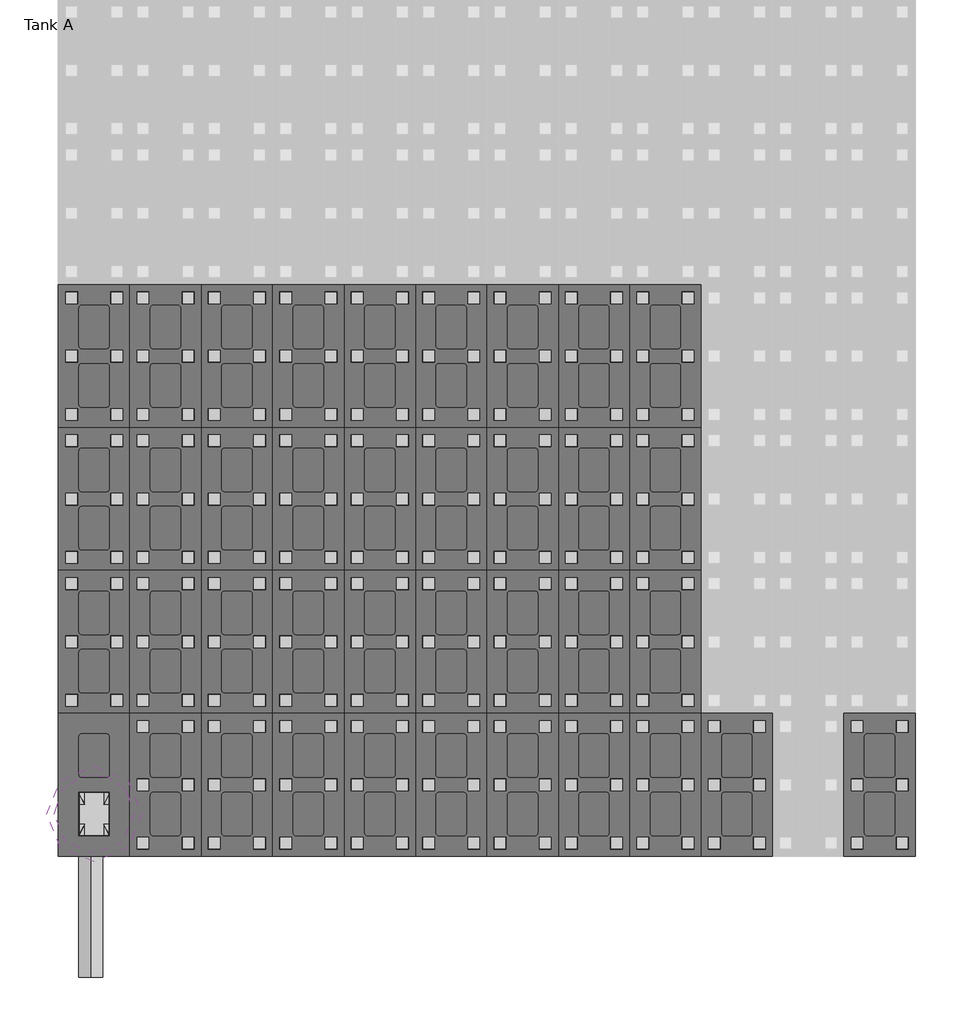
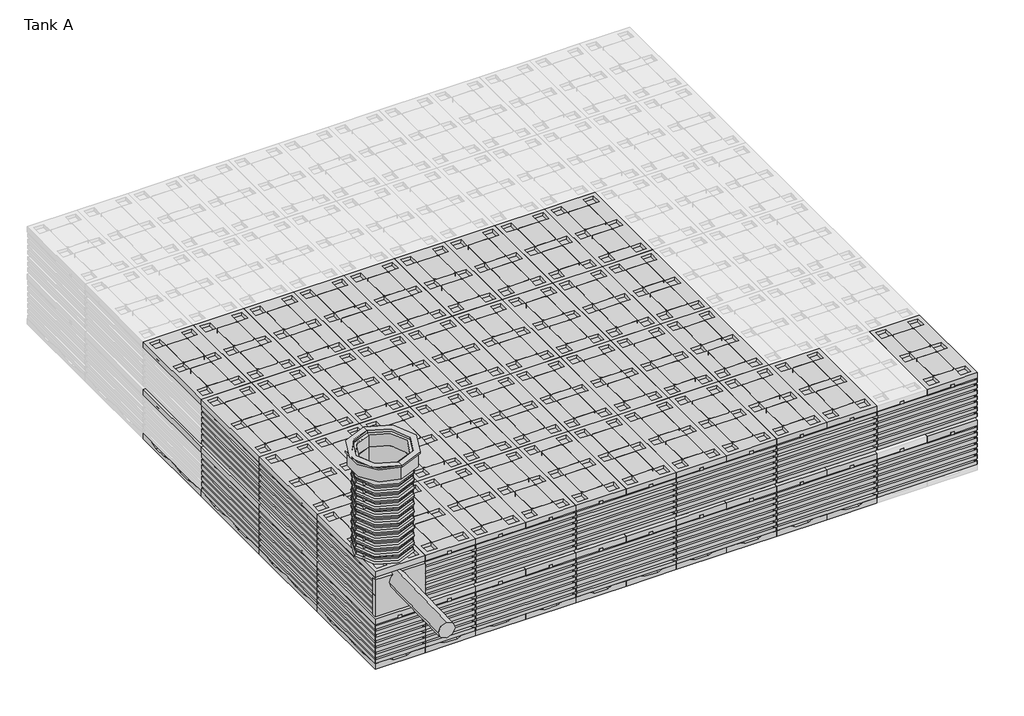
# One storey, part 1 of 6: 136 unitary equipment elements, 2 pipe fittings, 1 pipe segment.
"""IFC4 building model written with IfcOpenShell, lengths in millimetres."""

from ifc_helpers import new_model, si_unit, point, frame, frame_2d, origin, place, context, project, spatial, circle_curve, trimmed, segment, composite_curve, outline, extrude, transform, mapped, element, save
from components import pipe_fitting_6d64b734, pipe_fitting_905b8aec, std_ea1399cf, unitary_equipment_600_9c861f79, closed_bottom_plate_7d425a97, std_f31acf44, std_0451be0c, std_9ab658ca, std_7f29cd48, std_d7962c01

model = new_model("IFC4")

# Units and contexts
model_context = context("Model", 3, world=origin())
ifc_project = project(units=[si_unit("LENGTHUNIT", "METRE", prefix="MILLI")], contexts=[model_context])

# Site, building, storey
site = spatial("IfcSite", under=ifc_project)
building = spatial("IfcBuilding", under=site)
storey = spatial("IfcBuildingStorey", under=building, Name="Tank A", Elevation=-2300.0)

# Pipe fittings
placement = place(None, origin())
pipe_fitting_shape = pipe_fitting_6d64b734(model_context)
pipe_fitting_2_shape = pipe_fitting_905b8aec(model_context)
element("IfcPipeFitting", 1, ObjectType="Z_PIF_UN_Q-Bic_Plus_Shaft_Pipe_Wavin_(nested) : PP, RAL8012, ø600mm", at=placement, inside=storey, context=model_context, shape_type="MappedRepresentation", body=[
    mapped(pipe_fitting_shape, transform((2786.051096, -4084.2220602, -1070.0), x_axis=(0.0, 0.0, 1.0000000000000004), y_axis=(1.0000000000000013, 0.0, 0.0), z_axis=(0.0, 1.0000000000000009, 0.0))),
    mapped(pipe_fitting_2_shape, transform((2786.051096, -4084.2220602, -1070.0), x_axis=(0.0, 0.0, 1.0000000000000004), y_axis=(1.0000000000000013, 0.0, 0.0), z_axis=(0.0, 1.0000000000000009, 0.0))),
])
std_shape = std_ea1399cf(model_context)
element("IfcPipeFitting", 2, ObjectType="Z_PIF_UN_Q-Bic_Plus_Telescopic_Frame_Wavin_(nested) : std", at=placement, inside=storey, context=model_context, shape_type="MappedRepresentation", body=[
    mapped(std_shape, transform((2786.051096, -4084.2220602, 200.0), x_axis=(0.0, -1.0000000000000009, 0.0), y_axis=(1.0000000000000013, 0.0, 0.0), z_axis=(0.0, 0.0, 1.0000000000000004))),
])

# Pipe segment
element("IfcPipeSegment", 3, ObjectType="Generic PVC", at=placement, inside=storey, context=model_context, shape_type="SweptSolid", body=[
    extrude(outline(composite_curve([segment(trimmed(circle_curve(frame_2d((0.0, -100.0)), 100.0), [point((-100.0, -100.0))], [point((0.0, 0.0))], False, "CARTESIAN"), True, "CONTINUOUS"), segment(trimmed(circle_curve(frame_2d((0.0, -100.0)), 100.0), [point((0.0, 0.0))], [point((100.0, -100.0))], False, "CARTESIAN"), True, "CONTINUOUS"), segment(trimmed(circle_curve(frame_2d((0.0, -100.0)), 100.0), [point((100.0, -100.0))], [point((0.0, -199.9999999))], False, "CARTESIAN"), True, "CONTINUOUS"), segment(trimmed(circle_curve(frame_2d((0.0, -100.0)), 100.0), [point((0.0, -199.9999999))], [point((-100.0, -100.0))], False, "CARTESIAN"), True, "CONTINUOUS")], self_intersect=False)), frame((2756.051096, -5451.5950178, -1383.5203734), z_axis=(0.0, 0.9996774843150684, 0.02539541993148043), x_axis=(1.0, 0.0, 0.0)), (0.0, 0.0, 1.0), 1065.2560614),
])

# Unitary equipment
unitary_equipment_600_shape = unitary_equipment_600_9c861f79(model_context)
element("IfcUnitaryEquipment", 4, ObjectType="Z_ME_UN_Q-Bic_Plus_Kit_Shaft_Connector_Wavin_(nested) : 600", at=placement, inside=storey, context=model_context, shape_type="MappedRepresentation", body=[
    mapped(unitary_equipment_600_shape, transform((2786.051096, -4084.2220602, -1070.0), x_axis=(0.0, -1.0000000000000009, 0.0), y_axis=(1.0000000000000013, 0.0, 0.0), z_axis=(0.0, 0.0, 1.0000000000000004))),
])
closed_bottom_plate_shape = closed_bottom_plate_7d425a97(model_context)
element("IfcUnitaryEquipment", 5, ObjectType="Z_ME_UN_Q-Bic_Plus_Bottom_Plate_Wavin_(nested) : Open bottom plate", at=placement, inside=storey, context=model_context, shape_type="MappedRepresentation", body=[
    mapped(closed_bottom_plate_shape, transform((2486.051096, -3239.2220602, -2230.0), x_axis=(0.0, -1.0000000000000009, 0.0), y_axis=(1.0000000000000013, 0.0, 0.0), z_axis=(0.0, 0.0, 1.0000000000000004))),
])
element("IfcUnitaryEquipment", 6, ObjectType="Z_ME_UN_Q-Bic_Plus_Bottom_Plate_Wavin_(nested) : Open bottom plate", at=placement, inside=storey, context=model_context, shape_type="MappedRepresentation", body=[
    mapped(closed_bottom_plate_shape, transform((8486.051096, -4439.2220602, -2230.0), x_axis=(0.0, 1.0, 0.0), y_axis=(-1.0000000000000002, 0.0, 0.0), z_axis=(0.0, 0.0, 1.0000000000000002))),
])
element("IfcUnitaryEquipment", 7, ObjectType="Z_ME_UN_Q-Bic_Plus_Bottom_Plate_Wavin_(nested) : Open bottom plate", at=placement, inside=storey, context=model_context, shape_type="MappedRepresentation", body=[
    mapped(closed_bottom_plate_shape, transform((7886.051096, -4439.2220602, -2230.0), x_axis=(0.0, 1.0, 0.0), y_axis=(-1.0000000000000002, 0.0, 0.0), z_axis=(0.0, 0.0, 1.0000000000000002))),
])
element("IfcUnitaryEquipment", 8, ObjectType="Z_ME_UN_Q-Bic_Plus_Bottom_Plate_Wavin_(nested) : Open bottom plate", at=placement, inside=storey, context=model_context, shape_type="MappedRepresentation", body=[
    mapped(closed_bottom_plate_shape, transform((7286.051096, -4439.2220602, -2230.0), x_axis=(0.0, 1.0, 0.0), y_axis=(-1.0000000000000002, 0.0, 0.0), z_axis=(0.0, 0.0, 1.0000000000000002))),
])
element("IfcUnitaryEquipment", 9, ObjectType="Z_ME_UN_Q-Bic_Plus_Bottom_Plate_Wavin_(nested) : Open bottom plate", at=placement, inside=storey, context=model_context, shape_type="MappedRepresentation", body=[
    mapped(closed_bottom_plate_shape, transform((6686.051096, -4439.2220602, -2230.0), x_axis=(0.0, 1.0, 0.0), y_axis=(-1.0000000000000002, 0.0, 0.0), z_axis=(0.0, 0.0, 1.0000000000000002))),
])
element("IfcUnitaryEquipment", 10, ObjectType="Z_ME_UN_Q-Bic_Plus_Bottom_Plate_Wavin_(nested) : Open bottom plate", at=placement, inside=storey, context=model_context, shape_type="MappedRepresentation", body=[
    mapped(closed_bottom_plate_shape, transform((6086.051096, -4439.2220602, -2230.0), x_axis=(0.0, 1.0, 0.0), y_axis=(-1.0000000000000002, 0.0, 0.0), z_axis=(0.0, 0.0, 1.0000000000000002))),
])
element("IfcUnitaryEquipment", 11, ObjectType="Z_ME_UN_Q-Bic_Plus_Bottom_Plate_Wavin_(nested) : Open bottom plate", at=placement, inside=storey, context=model_context, shape_type="MappedRepresentation", body=[
    mapped(closed_bottom_plate_shape, transform((5486.051096, -4439.2220602, -2230.0), x_axis=(0.0, 1.0, 0.0), y_axis=(-1.0000000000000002, 0.0, 0.0), z_axis=(0.0, 0.0, 1.0000000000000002))),
])
element("IfcUnitaryEquipment", 12, ObjectType="Z_ME_UN_Q-Bic_Plus_Bottom_Plate_Wavin_(nested) : Open bottom plate", at=placement, inside=storey, context=model_context, shape_type="MappedRepresentation", body=[
    mapped(closed_bottom_plate_shape, transform((4886.051096, -4439.2220602, -2230.0), x_axis=(0.0, 1.0, 0.0), y_axis=(-1.0000000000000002, 0.0, 0.0), z_axis=(0.0, 0.0, 1.0000000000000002))),
])
element("IfcUnitaryEquipment", 13, ObjectType="Z_ME_UN_Q-Bic_Plus_Bottom_Plate_Wavin_(nested) : Open bottom plate", at=placement, inside=storey, context=model_context, shape_type="MappedRepresentation", body=[
    mapped(closed_bottom_plate_shape, transform((4286.051096, -4439.2220602, -2230.0), x_axis=(0.0, 1.0, 0.0), y_axis=(-1.0000000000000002, 0.0, 0.0), z_axis=(0.0, 0.0, 1.0000000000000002))),
])
element("IfcUnitaryEquipment", 14, ObjectType="Z_ME_UN_Q-Bic_Plus_Bottom_Plate_Wavin_(nested) : Open bottom plate", at=placement, inside=storey, context=model_context, shape_type="MappedRepresentation", body=[
    mapped(closed_bottom_plate_shape, transform((3686.051096, -4439.2220602, -2230.0), x_axis=(0.0, 1.0, 0.0), y_axis=(-1.0000000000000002, 0.0, 0.0), z_axis=(0.0, 0.0, 1.0000000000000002))),
])
element("IfcUnitaryEquipment", 15, ObjectType="Z_ME_UN_Q-Bic_Plus_Bottom_Plate_Wavin_(nested) : Open bottom plate", at=placement, inside=storey, context=model_context, shape_type="MappedRepresentation", body=[
    mapped(closed_bottom_plate_shape, transform((7886.051096, -3239.2220602, -2230.0), x_axis=(0.0, 1.0, 0.0), y_axis=(-1.0000000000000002, 0.0, 0.0), z_axis=(0.0, 0.0, 1.0000000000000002))),
])
element("IfcUnitaryEquipment", 16, ObjectType="Z_ME_UN_Q-Bic_Plus_Bottom_Plate_Wavin_(nested) : Open bottom plate", at=placement, inside=storey, context=model_context, shape_type="MappedRepresentation", body=[
    mapped(closed_bottom_plate_shape, transform((7886.051096, -2039.2220602, -2230.0), x_axis=(0.0, 1.0, 0.0), y_axis=(-1.0000000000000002, 0.0, 0.0), z_axis=(0.0, 0.0, 1.0000000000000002))),
])
element("IfcUnitaryEquipment", 17, ObjectType="Z_ME_UN_Q-Bic_Plus_Bottom_Plate_Wavin_(nested) : Open bottom plate", at=placement, inside=storey, context=model_context, shape_type="MappedRepresentation", body=[
    mapped(closed_bottom_plate_shape, transform((7886.051096, -839.2220602, -2230.0), x_axis=(0.0, 1.0, 0.0), y_axis=(-1.0000000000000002, 0.0, 0.0), z_axis=(0.0, 0.0, 1.0000000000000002))),
])
element("IfcUnitaryEquipment", 18, ObjectType="Z_ME_UN_Q-Bic_Plus_Bottom_Plate_Wavin_(nested) : Open bottom plate", at=placement, inside=storey, context=model_context, shape_type="MappedRepresentation", body=[
    mapped(closed_bottom_plate_shape, transform((7286.051096, -3239.2220602, -2230.0), x_axis=(0.0, 1.0, 0.0), y_axis=(-1.0000000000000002, 0.0, 0.0), z_axis=(0.0, 0.0, 1.0000000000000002))),
])
element("IfcUnitaryEquipment", 19, ObjectType="Z_ME_UN_Q-Bic_Plus_Bottom_Plate_Wavin_(nested) : Open bottom plate", at=placement, inside=storey, context=model_context, shape_type="MappedRepresentation", body=[
    mapped(closed_bottom_plate_shape, transform((7286.051096, -2039.2220602, -2230.0), x_axis=(0.0, 1.0, 0.0), y_axis=(-1.0000000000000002, 0.0, 0.0), z_axis=(0.0, 0.0, 1.0000000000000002))),
])
element("IfcUnitaryEquipment", 20, ObjectType="Z_ME_UN_Q-Bic_Plus_Bottom_Plate_Wavin_(nested) : Open bottom plate", at=placement, inside=storey, context=model_context, shape_type="MappedRepresentation", body=[
    mapped(closed_bottom_plate_shape, transform((7286.051096, -839.2220602, -2230.0), x_axis=(0.0, 1.0, 0.0), y_axis=(-1.0000000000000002, 0.0, 0.0), z_axis=(0.0, 0.0, 1.0000000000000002))),
])
element("IfcUnitaryEquipment", 21, ObjectType="Z_ME_UN_Q-Bic_Plus_Bottom_Plate_Wavin_(nested) : Open bottom plate", at=placement, inside=storey, context=model_context, shape_type="MappedRepresentation", body=[
    mapped(closed_bottom_plate_shape, transform((6686.051096, -3239.2220602, -2230.0), x_axis=(0.0, 1.0, 0.0), y_axis=(-1.0000000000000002, 0.0, 0.0), z_axis=(0.0, 0.0, 1.0000000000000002))),
])
element("IfcUnitaryEquipment", 22, ObjectType="Z_ME_UN_Q-Bic_Plus_Bottom_Plate_Wavin_(nested) : Open bottom plate", at=placement, inside=storey, context=model_context, shape_type="MappedRepresentation", body=[
    mapped(closed_bottom_plate_shape, transform((6686.051096, -2039.2220602, -2230.0), x_axis=(0.0, 1.0, 0.0), y_axis=(-1.0000000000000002, 0.0, 0.0), z_axis=(0.0, 0.0, 1.0000000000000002))),
])
element("IfcUnitaryEquipment", 23, ObjectType="Z_ME_UN_Q-Bic_Plus_Bottom_Plate_Wavin_(nested) : Open bottom plate", at=placement, inside=storey, context=model_context, shape_type="MappedRepresentation", body=[
    mapped(closed_bottom_plate_shape, transform((6686.051096, -839.2220602, -2230.0), x_axis=(0.0, 1.0, 0.0), y_axis=(-1.0000000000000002, 0.0, 0.0), z_axis=(0.0, 0.0, 1.0000000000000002))),
])
element("IfcUnitaryEquipment", 24, ObjectType="Z_ME_UN_Q-Bic_Plus_Bottom_Plate_Wavin_(nested) : Open bottom plate", at=placement, inside=storey, context=model_context, shape_type="MappedRepresentation", body=[
    mapped(closed_bottom_plate_shape, transform((6086.051096, -3239.2220602, -2230.0), x_axis=(0.0, 1.0, 0.0), y_axis=(-1.0000000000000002, 0.0, 0.0), z_axis=(0.0, 0.0, 1.0000000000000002))),
])
element("IfcUnitaryEquipment", 25, ObjectType="Z_ME_UN_Q-Bic_Plus_Bottom_Plate_Wavin_(nested) : Open bottom plate", at=placement, inside=storey, context=model_context, shape_type="MappedRepresentation", body=[
    mapped(closed_bottom_plate_shape, transform((6086.051096, -2039.2220602, -2230.0), x_axis=(0.0, 1.0, 0.0), y_axis=(-1.0000000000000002, 0.0, 0.0), z_axis=(0.0, 0.0, 1.0000000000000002))),
])
element("IfcUnitaryEquipment", 26, ObjectType="Z_ME_UN_Q-Bic_Plus_Bottom_Plate_Wavin_(nested) : Open bottom plate", at=placement, inside=storey, context=model_context, shape_type="MappedRepresentation", body=[
    mapped(closed_bottom_plate_shape, transform((6086.051096, -839.2220602, -2230.0), x_axis=(0.0, 1.0, 0.0), y_axis=(-1.0000000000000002, 0.0, 0.0), z_axis=(0.0, 0.0, 1.0000000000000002))),
])
element("IfcUnitaryEquipment", 27, ObjectType="Z_ME_UN_Q-Bic_Plus_Bottom_Plate_Wavin_(nested) : Open bottom plate", at=placement, inside=storey, context=model_context, shape_type="MappedRepresentation", body=[
    mapped(closed_bottom_plate_shape, transform((5486.051096, -3239.2220602, -2230.0), x_axis=(0.0, 1.0, 0.0), y_axis=(-1.0000000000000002, 0.0, 0.0), z_axis=(0.0, 0.0, 1.0000000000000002))),
])
element("IfcUnitaryEquipment", 28, ObjectType="Z_ME_UN_Q-Bic_Plus_Bottom_Plate_Wavin_(nested) : Open bottom plate", at=placement, inside=storey, context=model_context, shape_type="MappedRepresentation", body=[
    mapped(closed_bottom_plate_shape, transform((5486.051096, -2039.2220602, -2230.0), x_axis=(0.0, 1.0, 0.0), y_axis=(-1.0000000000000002, 0.0, 0.0), z_axis=(0.0, 0.0, 1.0000000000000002))),
])
element("IfcUnitaryEquipment", 29, ObjectType="Z_ME_UN_Q-Bic_Plus_Bottom_Plate_Wavin_(nested) : Open bottom plate", at=placement, inside=storey, context=model_context, shape_type="MappedRepresentation", body=[
    mapped(closed_bottom_plate_shape, transform((5486.051096, -839.2220602, -2230.0), x_axis=(0.0, 1.0, 0.0), y_axis=(-1.0000000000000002, 0.0, 0.0), z_axis=(0.0, 0.0, 1.0000000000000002))),
])
element("IfcUnitaryEquipment", 30, ObjectType="Z_ME_UN_Q-Bic_Plus_Bottom_Plate_Wavin_(nested) : Open bottom plate", at=placement, inside=storey, context=model_context, shape_type="MappedRepresentation", body=[
    mapped(closed_bottom_plate_shape, transform((4886.051096, -3239.2220602, -2230.0), x_axis=(0.0, 1.0, 0.0), y_axis=(-1.0000000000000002, 0.0, 0.0), z_axis=(0.0, 0.0, 1.0000000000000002))),
])
element("IfcUnitaryEquipment", 31, ObjectType="Z_ME_UN_Q-Bic_Plus_Bottom_Plate_Wavin_(nested) : Open bottom plate", at=placement, inside=storey, context=model_context, shape_type="MappedRepresentation", body=[
    mapped(closed_bottom_plate_shape, transform((4886.051096, -2039.2220602, -2230.0), x_axis=(0.0, 1.0, 0.0), y_axis=(-1.0000000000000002, 0.0, 0.0), z_axis=(0.0, 0.0, 1.0000000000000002))),
])
element("IfcUnitaryEquipment", 32, ObjectType="Z_ME_UN_Q-Bic_Plus_Bottom_Plate_Wavin_(nested) : Open bottom plate", at=placement, inside=storey, context=model_context, shape_type="MappedRepresentation", body=[
    mapped(closed_bottom_plate_shape, transform((4886.051096, -839.2220602, -2230.0), x_axis=(0.0, 1.0, 0.0), y_axis=(-1.0000000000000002, 0.0, 0.0), z_axis=(0.0, 0.0, 1.0000000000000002))),
])
element("IfcUnitaryEquipment", 33, ObjectType="Z_ME_UN_Q-Bic_Plus_Bottom_Plate_Wavin_(nested) : Open bottom plate", at=placement, inside=storey, context=model_context, shape_type="MappedRepresentation", body=[
    mapped(closed_bottom_plate_shape, transform((4286.051096, -3239.2220602, -2230.0), x_axis=(0.0, 1.0, 0.0), y_axis=(-1.0000000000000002, 0.0, 0.0), z_axis=(0.0, 0.0, 1.0000000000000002))),
])
element("IfcUnitaryEquipment", 34, ObjectType="Z_ME_UN_Q-Bic_Plus_Bottom_Plate_Wavin_(nested) : Open bottom plate", at=placement, inside=storey, context=model_context, shape_type="MappedRepresentation", body=[
    mapped(closed_bottom_plate_shape, transform((4286.051096, -2039.2220602, -2230.0), x_axis=(0.0, 1.0, 0.0), y_axis=(-1.0000000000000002, 0.0, 0.0), z_axis=(0.0, 0.0, 1.0000000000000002))),
])
element("IfcUnitaryEquipment", 35, ObjectType="Z_ME_UN_Q-Bic_Plus_Bottom_Plate_Wavin_(nested) : Open bottom plate", at=placement, inside=storey, context=model_context, shape_type="MappedRepresentation", body=[
    mapped(closed_bottom_plate_shape, transform((4286.051096, -839.2220602, -2230.0), x_axis=(0.0, 1.0, 0.0), y_axis=(-1.0000000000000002, 0.0, 0.0), z_axis=(0.0, 0.0, 1.0000000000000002))),
])
element("IfcUnitaryEquipment", 36, ObjectType="Z_ME_UN_Q-Bic_Plus_Bottom_Plate_Wavin_(nested) : Open bottom plate", at=placement, inside=storey, context=model_context, shape_type="MappedRepresentation", body=[
    mapped(closed_bottom_plate_shape, transform((3686.051096, -3239.2220602, -2230.0), x_axis=(0.0, 1.0, 0.0), y_axis=(-1.0000000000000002, 0.0, 0.0), z_axis=(0.0, 0.0, 1.0000000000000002))),
])
element("IfcUnitaryEquipment", 37, ObjectType="Z_ME_UN_Q-Bic_Plus_Bottom_Plate_Wavin_(nested) : Open bottom plate", at=placement, inside=storey, context=model_context, shape_type="MappedRepresentation", body=[
    mapped(closed_bottom_plate_shape, transform((3686.051096, -2039.2220602, -2230.0), x_axis=(0.0, 1.0, 0.0), y_axis=(-1.0000000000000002, 0.0, 0.0), z_axis=(0.0, 0.0, 1.0000000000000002))),
])
element("IfcUnitaryEquipment", 38, ObjectType="Z_ME_UN_Q-Bic_Plus_Bottom_Plate_Wavin_(nested) : Open bottom plate", at=placement, inside=storey, context=model_context, shape_type="MappedRepresentation", body=[
    mapped(closed_bottom_plate_shape, transform((3686.051096, -839.2220602, -2230.0), x_axis=(0.0, 1.0, 0.0), y_axis=(-1.0000000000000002, 0.0, 0.0), z_axis=(0.0, 0.0, 1.0000000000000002))),
])
element("IfcUnitaryEquipment", 39, ObjectType="Z_ME_UN_Q-Bic_Plus_Bottom_Plate_Wavin_(nested) : Open bottom plate", at=placement, inside=storey, context=model_context, shape_type="MappedRepresentation", body=[
    mapped(closed_bottom_plate_shape, transform((3086.051096, -3239.2220602, -2230.0), x_axis=(0.0, 1.0, 0.0), y_axis=(-1.0000000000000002, 0.0, 0.0), z_axis=(0.0, 0.0, 1.0000000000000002))),
])
element("IfcUnitaryEquipment", 40, ObjectType="Z_ME_UN_Q-Bic_Plus_Bottom_Plate_Wavin_(nested) : Open bottom plate", at=placement, inside=storey, context=model_context, shape_type="MappedRepresentation", body=[
    mapped(closed_bottom_plate_shape, transform((3086.051096, -2039.2220602, -2230.0), x_axis=(0.0, 1.0, 0.0), y_axis=(-1.0000000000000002, 0.0, 0.0), z_axis=(0.0, 0.0, 1.0000000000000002))),
])
element("IfcUnitaryEquipment", 41, ObjectType="Z_ME_UN_Q-Bic_Plus_Bottom_Plate_Wavin_(nested) : Open bottom plate", at=placement, inside=storey, context=model_context, shape_type="MappedRepresentation", body=[
    mapped(closed_bottom_plate_shape, transform((3086.051096, -839.2220602, -2230.0), x_axis=(0.0, 1.0, 0.0), y_axis=(-1.0000000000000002, 0.0, 0.0), z_axis=(0.0, 0.0, 1.0000000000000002))),
])
std_2_shape = std_f31acf44(model_context)
element("IfcUnitaryEquipment", 42, ObjectType="Z_ME_UN_Q-Bic_Plus_Lateral_Side_Plate_Wavin_(nested) : std", at=placement, inside=storey, context=model_context, shape_type="MappedRepresentation", body=[
    mapped(std_2_shape, transform((6086.051096, -4439.2220602, -2330.0), x_axis=(1.0, 0.0, 0.0), y_axis=(0.0, 1.0, 0.0), z_axis=(0.0, 0.0, 1.0))),
])
element("IfcUnitaryEquipment", 43, ObjectType="Z_ME_UN_Q-Bic_Plus_Lateral_Side_Plate_Wavin_(nested) : std", at=placement, inside=storey, context=model_context, shape_type="MappedRepresentation", body=[
    mapped(std_2_shape, transform((6086.051096, -4439.2220602, -1730.0), x_axis=(1.0, 0.0, 0.0), y_axis=(0.0, 1.0, 0.0), z_axis=(0.0, 0.0, 1.0))),
])
element("IfcUnitaryEquipment", 44, ObjectType="Z_ME_UN_Q-Bic_Plus_Lateral_Side_Plate_Wavin_(nested) : std", at=placement, inside=storey, context=model_context, shape_type="MappedRepresentation", body=[
    mapped(std_2_shape, transform((4886.051096, -4439.2220602, -2330.0), x_axis=(1.0, 0.0, 0.0), y_axis=(0.0, 1.0, 0.0), z_axis=(0.0, 0.0, 1.0))),
])
element("IfcUnitaryEquipment", 45, ObjectType="Z_ME_UN_Q-Bic_Plus_Lateral_Side_Plate_Wavin_(nested) : std", at=placement, inside=storey, context=model_context, shape_type="MappedRepresentation", body=[
    mapped(std_2_shape, transform((4886.051096, -4439.2220602, -1730.0), x_axis=(1.0, 0.0, 0.0), y_axis=(0.0, 1.0, 0.0), z_axis=(0.0, 0.0, 1.0))),
])
element("IfcUnitaryEquipment", 46, ObjectType="Z_ME_UN_Q-Bic_Plus_Lateral_Side_Plate_Wavin_(nested) : std", at=placement, inside=storey, context=model_context, shape_type="MappedRepresentation", body=[
    mapped(std_2_shape, transform((3686.051096, -4439.2220602, -2330.0), x_axis=(1.0, 0.0, 0.0), y_axis=(0.0, 1.0, 0.0), z_axis=(0.0, 0.0, 1.0))),
])
element("IfcUnitaryEquipment", 47, ObjectType="Z_ME_UN_Q-Bic_Plus_Lateral_Side_Plate_Wavin_(nested) : std", at=placement, inside=storey, context=model_context, shape_type="MappedRepresentation", body=[
    mapped(std_2_shape, transform((3686.051096, -4439.2220602, -1730.0), x_axis=(1.0, 0.0, 0.0), y_axis=(0.0, 1.0, 0.0), z_axis=(0.0, 0.0, 1.0))),
])
element("IfcUnitaryEquipment", 48, ObjectType="Z_ME_UN_Q-Bic_Plus_Lateral_Side_Plate_Wavin_(nested) : std", at=placement, inside=storey, context=model_context, shape_type="MappedRepresentation", body=[
    mapped(std_2_shape, transform((9686.051096, -4439.2220602, -2330.0), x_axis=(0.0, 1.0000000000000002, 0.0), y_axis=(-1.0000000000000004, 0.0, 0.0), z_axis=(0.0, 0.0, 1.0000000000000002))),
])
element("IfcUnitaryEquipment", 49, ObjectType="Z_ME_UN_Q-Bic_Plus_Lateral_Side_Plate_Wavin_(nested) : std", at=placement, inside=storey, context=model_context, shape_type="MappedRepresentation", body=[
    mapped(std_2_shape, transform((9686.051096, -4439.2220602, -1730.0), x_axis=(0.0, 1.0000000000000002, 0.0), y_axis=(-1.0000000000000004, 0.0, 0.0), z_axis=(0.0, 0.0, 1.0000000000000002))),
])
element("IfcUnitaryEquipment", 50, ObjectType="Z_ME_UN_Q-Bic_Plus_Lateral_Side_Plate_Wavin_(nested) : std", at=placement, inside=storey, context=model_context, shape_type="MappedRepresentation", body=[
    mapped(std_2_shape, transform((2486.051096, -839.2220602, -2330.0), x_axis=(0.0, -1.0000000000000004, 0.0), y_axis=(1.0000000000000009, 0.0, 0.0), z_axis=(0.0, 0.0, 1.0000000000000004))),
])
element("IfcUnitaryEquipment", 51, ObjectType="Z_ME_UN_Q-Bic_Plus_Lateral_Side_Plate_Wavin_(nested) : std", at=placement, inside=storey, context=model_context, shape_type="MappedRepresentation", body=[
    mapped(std_2_shape, transform((2486.051096, -839.2220602, -1730.0), x_axis=(0.0, -1.0000000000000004, 0.0), y_axis=(1.0000000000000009, 0.0, 0.0), z_axis=(0.0, 0.0, 1.0000000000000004))),
])
element("IfcUnitaryEquipment", 52, ObjectType="Z_ME_UN_Q-Bic_Plus_Lateral_Side_Plate_Wavin_(nested) : std", at=placement, inside=storey, context=model_context, shape_type="MappedRepresentation", body=[
    mapped(std_2_shape, transform((7286.051096, -4439.2220602, -2330.0), x_axis=(1.0, 0.0, 0.0), y_axis=(0.0, 1.0, 0.0), z_axis=(0.0, 0.0, 1.0))),
])
element("IfcUnitaryEquipment", 53, ObjectType="Z_ME_UN_Q-Bic_Plus_Lateral_Side_Plate_Wavin_(nested) : std", at=placement, inside=storey, context=model_context, shape_type="MappedRepresentation", body=[
    mapped(std_2_shape, transform((7286.051096, -4439.2220602, -1730.0), x_axis=(1.0, 0.0, 0.0), y_axis=(0.0, 1.0, 0.0), z_axis=(0.0, 0.0, 1.0))),
])
element("IfcUnitaryEquipment", 54, ObjectType="Z_ME_UN_Q-Bic_Plus_Lateral_Side_Plate_Wavin_(nested) : std", at=placement, inside=storey, context=model_context, shape_type="MappedRepresentation", body=[
    mapped(std_2_shape, transform((8486.051096, -4439.2220602, -2330.0), x_axis=(1.0, 0.0, 0.0), y_axis=(0.0, 1.0, 0.0), z_axis=(0.0, 0.0, 1.0))),
])
element("IfcUnitaryEquipment", 55, ObjectType="Z_ME_UN_Q-Bic_Plus_Lateral_Side_Plate_Wavin_(nested) : std", at=placement, inside=storey, context=model_context, shape_type="MappedRepresentation", body=[
    mapped(std_2_shape, transform((8486.051096, -4439.2220602, -1730.0), x_axis=(1.0, 0.0, 0.0), y_axis=(0.0, 1.0, 0.0), z_axis=(0.0, 0.0, 1.0))),
])
element("IfcUnitaryEquipment", 56, ObjectType="Z_ME_UN_Q-Bic_Plus_Lateral_Side_Plate_Wavin_(nested) : std", at=placement, inside=storey, context=model_context, shape_type="MappedRepresentation", body=[
    mapped(std_2_shape, transform((2486.051096, -2039.2220602, -2330.0), x_axis=(0.0, -1.0000000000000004, 0.0), y_axis=(1.0000000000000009, 0.0, 0.0), z_axis=(0.0, 0.0, 1.0000000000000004))),
])
element("IfcUnitaryEquipment", 57, ObjectType="Z_ME_UN_Q-Bic_Plus_Lateral_Side_Plate_Wavin_(nested) : std", at=placement, inside=storey, context=model_context, shape_type="MappedRepresentation", body=[
    mapped(std_2_shape, transform((2486.051096, -2039.2220602, -1730.0), x_axis=(0.0, -1.0000000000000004, 0.0), y_axis=(1.0000000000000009, 0.0, 0.0), z_axis=(0.0, 0.0, 1.0000000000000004))),
])
element("IfcUnitaryEquipment", 58, ObjectType="Z_ME_UN_Q-Bic_Plus_Lateral_Side_Plate_Wavin_(nested) : std", at=placement, inside=storey, context=model_context, shape_type="MappedRepresentation", body=[
    mapped(std_2_shape, transform((2486.051096, -3239.2220602, -2330.0), x_axis=(0.0, -1.0000000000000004, 0.0), y_axis=(1.0000000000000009, 0.0, 0.0), z_axis=(0.0, 0.0, 1.0000000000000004))),
])
element("IfcUnitaryEquipment", 59, ObjectType="Z_ME_UN_Q-Bic_Plus_Lateral_Side_Plate_Wavin_(nested) : std", at=placement, inside=storey, context=model_context, shape_type="MappedRepresentation", body=[
    mapped(std_2_shape, transform((2486.051096, -3239.2220602, -1730.0), x_axis=(0.0, -1.0000000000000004, 0.0), y_axis=(1.0000000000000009, 0.0, 0.0), z_axis=(0.0, 0.0, 1.0000000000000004))),
])
std_3_shape = std_0451be0c(model_context)
element("IfcUnitaryEquipment", 60, ObjectType="Z_ME_UN_Q-Bic_Plus_Lateral_Side_Plate_Wavin_(nested) : std", at=placement, inside=storey, context=model_context, shape_type="MappedRepresentation", body=[
    mapped(std_3_shape, transform((3078.051096, -4439.2220602, -1730.0), x_axis=(1.0, 0.0, 0.0), y_axis=(0.0, 1.0, 0.0), z_axis=(0.0, 0.0, 1.0))),
])
element("IfcUnitaryEquipment", 61, ObjectType="Z_ME_UN_Q-Bic_Plus_Lateral_Side_Plate_Wavin_(nested) : std", at=placement, inside=storey, context=model_context, shape_type="MappedRepresentation", body=[
    mapped(std_3_shape, transform((3078.051096, -4439.2220602, -2330.0), x_axis=(1.0, 0.0, 0.0), y_axis=(0.0, 1.0, 0.0), z_axis=(0.0, 0.0, 1.0))),
])
element("IfcUnitaryEquipment", 62, ObjectType="Z_ME_UN_Q-Bic_Plus_Lateral_Side_Plate_Wavin_(nested) : std", at=placement, inside=storey, context=model_context, shape_type="MappedRepresentation", body=[
    mapped(std_3_shape, transform((2486.051096, -4439.2220602, -2330.0), x_axis=(1.0, 0.0, 0.0), y_axis=(0.0, 1.0, 0.0), z_axis=(0.0, 0.0, 1.0))),
])
std_4_shape = std_9ab658ca(model_context)
element("IfcUnitaryEquipment", 63, ObjectType="Z_ME_UN_Q-Bic_Plus_Connection_Plate_Wavin_(nested) : std", at=placement, inside=storey, context=model_context, shape_type="MappedRepresentation", body=[
    mapped(std_4_shape, transform((2486.051096, -4439.2220602, -1730.0), x_axis=(1.0, 0.0, 0.0), y_axis=(0.0, 1.0, 0.0), z_axis=(0.0, 0.0, 1.0))),
])
std_5_shape = std_7f29cd48(model_context)
element("IfcUnitaryEquipment", 64, ObjectType="Z_ME_UN_Q-Bic_Plus_Infiltration_Unit_Wavin_(nested) : std", at=placement, inside=storey, context=model_context, shape_type="MappedRepresentation", body=[
    mapped(std_5_shape, transform((2486.051096, -3239.2220602, -1670.0), x_axis=(0.0, -1.0000000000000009, 0.0), y_axis=(1.0000000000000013, 0.0, 0.0), z_axis=(0.0, 0.0, 1.0000000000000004))),
])
element("IfcUnitaryEquipment", 65, ObjectType="Z_ME_UN_Q-Bic_Plus_Infiltration_Unit_Wavin_(nested) : std", at=placement, inside=storey, context=model_context, shape_type="MappedRepresentation", body=[
    mapped(std_5_shape, transform((2486.051096, -3239.2220602, -2270.0), x_axis=(0.0, -1.0000000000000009, 0.0), y_axis=(1.0000000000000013, 0.0, 0.0), z_axis=(0.0, 0.0, 1.0000000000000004))),
])
std_6_shape = std_d7962c01(model_context)
element("IfcUnitaryEquipment", 66, ObjectType="Z_ME_UN_Q-Bic_Plus_Infiltration_Unit_Wavin_(nested) : std", at=placement, inside=storey, context=model_context, shape_type="MappedRepresentation", body=[
    mapped(std_6_shape, transform((9686.051096, -4439.2220602, -1670.0), x_axis=(0.0, 1.0000000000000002, 0.0), y_axis=(-1.0000000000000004, 0.0, 0.0), z_axis=(0.0, 0.0, 1.0000000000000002))),
])
element("IfcUnitaryEquipment", 67, ObjectType="Z_ME_UN_Q-Bic_Plus_Infiltration_Unit_Wavin_(nested) : std", at=placement, inside=storey, context=model_context, shape_type="MappedRepresentation", body=[
    mapped(std_6_shape, transform((9686.051096, -4439.2220602, -2270.0), x_axis=(0.0, 1.0000000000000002, 0.0), y_axis=(-1.0000000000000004, 0.0, 0.0), z_axis=(0.0, 0.0, 1.0000000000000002))),
])
element("IfcUnitaryEquipment", 68, ObjectType="Z_ME_UN_Q-Bic_Plus_Infiltration_Unit_Wavin_(nested) : std", at=placement, inside=storey, context=model_context, shape_type="MappedRepresentation", body=[
    mapped(std_6_shape, transform((8486.051096, -4439.2220602, -1670.0), x_axis=(0.0, 1.0, 0.0), y_axis=(-1.0000000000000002, 0.0, 0.0), z_axis=(0.0, 0.0, 1.0000000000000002))),
])
element("IfcUnitaryEquipment", 69, ObjectType="Z_ME_UN_Q-Bic_Plus_Infiltration_Unit_Wavin_(nested) : std", at=placement, inside=storey, context=model_context, shape_type="MappedRepresentation", body=[
    mapped(std_6_shape, transform((8486.051096, -4439.2220602, -2270.0), x_axis=(0.0, 1.0, 0.0), y_axis=(-1.0000000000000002, 0.0, 0.0), z_axis=(0.0, 0.0, 1.0000000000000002))),
])
element("IfcUnitaryEquipment", 70, ObjectType="Z_ME_UN_Q-Bic_Plus_Infiltration_Unit_Wavin_(nested) : std", at=placement, inside=storey, context=model_context, shape_type="MappedRepresentation", body=[
    mapped(std_6_shape, transform((7886.051096, -4439.2220602, -1670.0), x_axis=(0.0, 1.0, 0.0), y_axis=(-1.0000000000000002, 0.0, 0.0), z_axis=(0.0, 0.0, 1.0000000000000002))),
])
element("IfcUnitaryEquipment", 71, ObjectType="Z_ME_UN_Q-Bic_Plus_Infiltration_Unit_Wavin_(nested) : std", at=placement, inside=storey, context=model_context, shape_type="MappedRepresentation", body=[
    mapped(std_6_shape, transform((7886.051096, -4439.2220602, -2270.0), x_axis=(0.0, 1.0, 0.0), y_axis=(-1.0000000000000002, 0.0, 0.0), z_axis=(0.0, 0.0, 1.0000000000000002))),
])
element("IfcUnitaryEquipment", 72, ObjectType="Z_ME_UN_Q-Bic_Plus_Infiltration_Unit_Wavin_(nested) : std", at=placement, inside=storey, context=model_context, shape_type="MappedRepresentation", body=[
    mapped(std_6_shape, transform((7286.051096, -4439.2220602, -1670.0), x_axis=(0.0, 1.0, 0.0), y_axis=(-1.0000000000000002, 0.0, 0.0), z_axis=(0.0, 0.0, 1.0000000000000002))),
])
element("IfcUnitaryEquipment", 73, ObjectType="Z_ME_UN_Q-Bic_Plus_Infiltration_Unit_Wavin_(nested) : std", at=placement, inside=storey, context=model_context, shape_type="MappedRepresentation", body=[
    mapped(std_6_shape, transform((7286.051096, -4439.2220602, -2270.0), x_axis=(0.0, 1.0, 0.0), y_axis=(-1.0000000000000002, 0.0, 0.0), z_axis=(0.0, 0.0, 1.0000000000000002))),
])
element("IfcUnitaryEquipment", 74, ObjectType="Z_ME_UN_Q-Bic_Plus_Infiltration_Unit_Wavin_(nested) : std", at=placement, inside=storey, context=model_context, shape_type="MappedRepresentation", body=[
    mapped(std_6_shape, transform((6686.051096, -4439.2220602, -1670.0), x_axis=(0.0, 1.0, 0.0), y_axis=(-1.0000000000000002, 0.0, 0.0), z_axis=(0.0, 0.0, 1.0000000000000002))),
])
element("IfcUnitaryEquipment", 75, ObjectType="Z_ME_UN_Q-Bic_Plus_Infiltration_Unit_Wavin_(nested) : std", at=placement, inside=storey, context=model_context, shape_type="MappedRepresentation", body=[
    mapped(std_6_shape, transform((6686.051096, -4439.2220602, -2270.0), x_axis=(0.0, 1.0, 0.0), y_axis=(-1.0000000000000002, 0.0, 0.0), z_axis=(0.0, 0.0, 1.0000000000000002))),
])
element("IfcUnitaryEquipment", 76, ObjectType="Z_ME_UN_Q-Bic_Plus_Infiltration_Unit_Wavin_(nested) : std", at=placement, inside=storey, context=model_context, shape_type="MappedRepresentation", body=[
    mapped(std_6_shape, transform((6086.051096, -4439.2220602, -1670.0), x_axis=(0.0, 1.0, 0.0), y_axis=(-1.0000000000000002, 0.0, 0.0), z_axis=(0.0, 0.0, 1.0000000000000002))),
])
element("IfcUnitaryEquipment", 77, ObjectType="Z_ME_UN_Q-Bic_Plus_Infiltration_Unit_Wavin_(nested) : std", at=placement, inside=storey, context=model_context, shape_type="MappedRepresentation", body=[
    mapped(std_6_shape, transform((6086.051096, -4439.2220602, -2270.0), x_axis=(0.0, 1.0, 0.0), y_axis=(-1.0000000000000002, 0.0, 0.0), z_axis=(0.0, 0.0, 1.0000000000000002))),
])
element("IfcUnitaryEquipment", 78, ObjectType="Z_ME_UN_Q-Bic_Plus_Infiltration_Unit_Wavin_(nested) : std", at=placement, inside=storey, context=model_context, shape_type="MappedRepresentation", body=[
    mapped(std_6_shape, transform((5486.051096, -4439.2220602, -1670.0), x_axis=(0.0, 1.0, 0.0), y_axis=(-1.0000000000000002, 0.0, 0.0), z_axis=(0.0, 0.0, 1.0000000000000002))),
])
element("IfcUnitaryEquipment", 79, ObjectType="Z_ME_UN_Q-Bic_Plus_Infiltration_Unit_Wavin_(nested) : std", at=placement, inside=storey, context=model_context, shape_type="MappedRepresentation", body=[
    mapped(std_6_shape, transform((5486.051096, -4439.2220602, -2270.0), x_axis=(0.0, 1.0, 0.0), y_axis=(-1.0000000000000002, 0.0, 0.0), z_axis=(0.0, 0.0, 1.0000000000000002))),
])
element("IfcUnitaryEquipment", 80, ObjectType="Z_ME_UN_Q-Bic_Plus_Infiltration_Unit_Wavin_(nested) : std", at=placement, inside=storey, context=model_context, shape_type="MappedRepresentation", body=[
    mapped(std_6_shape, transform((4886.051096, -4439.2220602, -1670.0), x_axis=(0.0, 1.0, 0.0), y_axis=(-1.0000000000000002, 0.0, 0.0), z_axis=(0.0, 0.0, 1.0000000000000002))),
])
element("IfcUnitaryEquipment", 81, ObjectType="Z_ME_UN_Q-Bic_Plus_Infiltration_Unit_Wavin_(nested) : std", at=placement, inside=storey, context=model_context, shape_type="MappedRepresentation", body=[
    mapped(std_6_shape, transform((4886.051096, -4439.2220602, -2270.0), x_axis=(0.0, 1.0, 0.0), y_axis=(-1.0000000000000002, 0.0, 0.0), z_axis=(0.0, 0.0, 1.0000000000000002))),
])
element("IfcUnitaryEquipment", 82, ObjectType="Z_ME_UN_Q-Bic_Plus_Infiltration_Unit_Wavin_(nested) : std", at=placement, inside=storey, context=model_context, shape_type="MappedRepresentation", body=[
    mapped(std_6_shape, transform((4286.051096, -4439.2220602, -1670.0), x_axis=(0.0, 1.0, 0.0), y_axis=(-1.0000000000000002, 0.0, 0.0), z_axis=(0.0, 0.0, 1.0000000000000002))),
])
element("IfcUnitaryEquipment", 83, ObjectType="Z_ME_UN_Q-Bic_Plus_Infiltration_Unit_Wavin_(nested) : std", at=placement, inside=storey, context=model_context, shape_type="MappedRepresentation", body=[
    mapped(std_6_shape, transform((4286.051096, -4439.2220602, -2270.0), x_axis=(0.0, 1.0, 0.0), y_axis=(-1.0000000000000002, 0.0, 0.0), z_axis=(0.0, 0.0, 1.0000000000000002))),
])
element("IfcUnitaryEquipment", 84, ObjectType="Z_ME_UN_Q-Bic_Plus_Infiltration_Unit_Wavin_(nested) : std", at=placement, inside=storey, context=model_context, shape_type="MappedRepresentation", body=[
    mapped(std_6_shape, transform((3686.051096, -4439.2220602, -1670.0), x_axis=(0.0, 1.0, 0.0), y_axis=(-1.0000000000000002, 0.0, 0.0), z_axis=(0.0, 0.0, 1.0000000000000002))),
])
element("IfcUnitaryEquipment", 85, ObjectType="Z_ME_UN_Q-Bic_Plus_Infiltration_Unit_Wavin_(nested) : std", at=placement, inside=storey, context=model_context, shape_type="MappedRepresentation", body=[
    mapped(std_6_shape, transform((3686.051096, -4439.2220602, -2270.0), x_axis=(0.0, 1.0, 0.0), y_axis=(-1.0000000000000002, 0.0, 0.0), z_axis=(0.0, 0.0, 1.0000000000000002))),
])
element("IfcUnitaryEquipment", 86, ObjectType="Z_ME_UN_Q-Bic_Plus_Infiltration_Unit_Wavin_(nested) : std", at=placement, inside=storey, context=model_context, shape_type="MappedRepresentation", body=[
    mapped(std_6_shape, transform((7886.051096, -3239.2220602, -1670.0), x_axis=(0.0, 1.0, 0.0), y_axis=(-1.0000000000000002, 0.0, 0.0), z_axis=(0.0, 0.0, 1.0000000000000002))),
])
element("IfcUnitaryEquipment", 87, ObjectType="Z_ME_UN_Q-Bic_Plus_Infiltration_Unit_Wavin_(nested) : std", at=placement, inside=storey, context=model_context, shape_type="MappedRepresentation", body=[
    mapped(std_6_shape, transform((7886.051096, -3239.2220602, -2270.0), x_axis=(0.0, 1.0, 0.0), y_axis=(-1.0000000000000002, 0.0, 0.0), z_axis=(0.0, 0.0, 1.0000000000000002))),
])
element("IfcUnitaryEquipment", 88, ObjectType="Z_ME_UN_Q-Bic_Plus_Infiltration_Unit_Wavin_(nested) : std", at=placement, inside=storey, context=model_context, shape_type="MappedRepresentation", body=[
    mapped(std_6_shape, transform((7886.051096, -2039.2220602, -1670.0), x_axis=(0.0, 1.0, 0.0), y_axis=(-1.0000000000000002, 0.0, 0.0), z_axis=(0.0, 0.0, 1.0000000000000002))),
])
element("IfcUnitaryEquipment", 89, ObjectType="Z_ME_UN_Q-Bic_Plus_Infiltration_Unit_Wavin_(nested) : std", at=placement, inside=storey, context=model_context, shape_type="MappedRepresentation", body=[
    mapped(std_6_shape, transform((7886.051096, -2039.2220602, -2270.0), x_axis=(0.0, 1.0, 0.0), y_axis=(-1.0000000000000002, 0.0, 0.0), z_axis=(0.0, 0.0, 1.0000000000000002))),
])
element("IfcUnitaryEquipment", 90, ObjectType="Z_ME_UN_Q-Bic_Plus_Infiltration_Unit_Wavin_(nested) : std", at=placement, inside=storey, context=model_context, shape_type="MappedRepresentation", body=[
    mapped(std_6_shape, transform((7886.051096, -839.2220602, -1670.0), x_axis=(0.0, 1.0, 0.0), y_axis=(-1.0000000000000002, 0.0, 0.0), z_axis=(0.0, 0.0, 1.0000000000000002))),
])
element("IfcUnitaryEquipment", 91, ObjectType="Z_ME_UN_Q-Bic_Plus_Infiltration_Unit_Wavin_(nested) : std", at=placement, inside=storey, context=model_context, shape_type="MappedRepresentation", body=[
    mapped(std_6_shape, transform((7886.051096, -839.2220602, -2270.0), x_axis=(0.0, 1.0, 0.0), y_axis=(-1.0000000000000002, 0.0, 0.0), z_axis=(0.0, 0.0, 1.0000000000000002))),
])
element("IfcUnitaryEquipment", 92, ObjectType="Z_ME_UN_Q-Bic_Plus_Infiltration_Unit_Wavin_(nested) : std", at=placement, inside=storey, context=model_context, shape_type="MappedRepresentation", body=[
    mapped(std_6_shape, transform((7286.051096, -3239.2220602, -1670.0), x_axis=(0.0, 1.0, 0.0), y_axis=(-1.0000000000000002, 0.0, 0.0), z_axis=(0.0, 0.0, 1.0000000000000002))),
])
element("IfcUnitaryEquipment", 93, ObjectType="Z_ME_UN_Q-Bic_Plus_Infiltration_Unit_Wavin_(nested) : std", at=placement, inside=storey, context=model_context, shape_type="MappedRepresentation", body=[
    mapped(std_6_shape, transform((7286.051096, -3239.2220602, -2270.0), x_axis=(0.0, 1.0, 0.0), y_axis=(-1.0000000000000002, 0.0, 0.0), z_axis=(0.0, 0.0, 1.0000000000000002))),
])
element("IfcUnitaryEquipment", 94, ObjectType="Z_ME_UN_Q-Bic_Plus_Infiltration_Unit_Wavin_(nested) : std", at=placement, inside=storey, context=model_context, shape_type="MappedRepresentation", body=[
    mapped(std_6_shape, transform((7286.051096, -2039.2220602, -1670.0), x_axis=(0.0, 1.0, 0.0), y_axis=(-1.0000000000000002, 0.0, 0.0), z_axis=(0.0, 0.0, 1.0000000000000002))),
])
element("IfcUnitaryEquipment", 95, ObjectType="Z_ME_UN_Q-Bic_Plus_Infiltration_Unit_Wavin_(nested) : std", at=placement, inside=storey, context=model_context, shape_type="MappedRepresentation", body=[
    mapped(std_6_shape, transform((7286.051096, -2039.2220602, -2270.0), x_axis=(0.0, 1.0, 0.0), y_axis=(-1.0000000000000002, 0.0, 0.0), z_axis=(0.0, 0.0, 1.0000000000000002))),
])
element("IfcUnitaryEquipment", 96, ObjectType="Z_ME_UN_Q-Bic_Plus_Infiltration_Unit_Wavin_(nested) : std", at=placement, inside=storey, context=model_context, shape_type="MappedRepresentation", body=[
    mapped(std_6_shape, transform((7286.051096, -839.2220602, -1670.0), x_axis=(0.0, 1.0, 0.0), y_axis=(-1.0000000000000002, 0.0, 0.0), z_axis=(0.0, 0.0, 1.0000000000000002))),
])
element("IfcUnitaryEquipment", 97, ObjectType="Z_ME_UN_Q-Bic_Plus_Infiltration_Unit_Wavin_(nested) : std", at=placement, inside=storey, context=model_context, shape_type="MappedRepresentation", body=[
    mapped(std_6_shape, transform((7286.051096, -839.2220602, -2270.0), x_axis=(0.0, 1.0, 0.0), y_axis=(-1.0000000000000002, 0.0, 0.0), z_axis=(0.0, 0.0, 1.0000000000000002))),
])
element("IfcUnitaryEquipment", 98, ObjectType="Z_ME_UN_Q-Bic_Plus_Infiltration_Unit_Wavin_(nested) : std", at=placement, inside=storey, context=model_context, shape_type="MappedRepresentation", body=[
    mapped(std_6_shape, transform((6686.051096, -3239.2220602, -1670.0), x_axis=(0.0, 1.0, 0.0), y_axis=(-1.0000000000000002, 0.0, 0.0), z_axis=(0.0, 0.0, 1.0000000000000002))),
])
element("IfcUnitaryEquipment", 99, ObjectType="Z_ME_UN_Q-Bic_Plus_Infiltration_Unit_Wavin_(nested) : std", at=placement, inside=storey, context=model_context, shape_type="MappedRepresentation", body=[
    mapped(std_6_shape, transform((6686.051096, -3239.2220602, -2270.0), x_axis=(0.0, 1.0, 0.0), y_axis=(-1.0000000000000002, 0.0, 0.0), z_axis=(0.0, 0.0, 1.0000000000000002))),
])
element("IfcUnitaryEquipment", 100, ObjectType="Z_ME_UN_Q-Bic_Plus_Infiltration_Unit_Wavin_(nested) : std", at=placement, inside=storey, context=model_context, shape_type="MappedRepresentation", body=[
    mapped(std_6_shape, transform((6686.051096, -2039.2220602, -1670.0), x_axis=(0.0, 1.0, 0.0), y_axis=(-1.0000000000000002, 0.0, 0.0), z_axis=(0.0, 0.0, 1.0000000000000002))),
])
element("IfcUnitaryEquipment", 101, ObjectType="Z_ME_UN_Q-Bic_Plus_Infiltration_Unit_Wavin_(nested) : std", at=placement, inside=storey, context=model_context, shape_type="MappedRepresentation", body=[
    mapped(std_6_shape, transform((6686.051096, -2039.2220602, -2270.0), x_axis=(0.0, 1.0, 0.0), y_axis=(-1.0000000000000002, 0.0, 0.0), z_axis=(0.0, 0.0, 1.0000000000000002))),
])
element("IfcUnitaryEquipment", 102, ObjectType="Z_ME_UN_Q-Bic_Plus_Infiltration_Unit_Wavin_(nested) : std", at=placement, inside=storey, context=model_context, shape_type="MappedRepresentation", body=[
    mapped(std_6_shape, transform((6686.051096, -839.2220602, -1670.0), x_axis=(0.0, 1.0, 0.0), y_axis=(-1.0000000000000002, 0.0, 0.0), z_axis=(0.0, 0.0, 1.0000000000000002))),
])
element("IfcUnitaryEquipment", 103, ObjectType="Z_ME_UN_Q-Bic_Plus_Infiltration_Unit_Wavin_(nested) : std", at=placement, inside=storey, context=model_context, shape_type="MappedRepresentation", body=[
    mapped(std_6_shape, transform((6686.051096, -839.2220602, -2270.0), x_axis=(0.0, 1.0, 0.0), y_axis=(-1.0000000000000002, 0.0, 0.0), z_axis=(0.0, 0.0, 1.0000000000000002))),
])
element("IfcUnitaryEquipment", 104, ObjectType="Z_ME_UN_Q-Bic_Plus_Infiltration_Unit_Wavin_(nested) : std", at=placement, inside=storey, context=model_context, shape_type="MappedRepresentation", body=[
    mapped(std_6_shape, transform((6086.051096, -3239.2220602, -1670.0), x_axis=(0.0, 1.0, 0.0), y_axis=(-1.0000000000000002, 0.0, 0.0), z_axis=(0.0, 0.0, 1.0000000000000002))),
])
element("IfcUnitaryEquipment", 105, ObjectType="Z_ME_UN_Q-Bic_Plus_Infiltration_Unit_Wavin_(nested) : std", at=placement, inside=storey, context=model_context, shape_type="MappedRepresentation", body=[
    mapped(std_6_shape, transform((6086.051096, -3239.2220602, -2270.0), x_axis=(0.0, 1.0, 0.0), y_axis=(-1.0000000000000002, 0.0, 0.0), z_axis=(0.0, 0.0, 1.0000000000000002))),
])
element("IfcUnitaryEquipment", 106, ObjectType="Z_ME_UN_Q-Bic_Plus_Infiltration_Unit_Wavin_(nested) : std", at=placement, inside=storey, context=model_context, shape_type="MappedRepresentation", body=[
    mapped(std_6_shape, transform((6086.051096, -2039.2220602, -1670.0), x_axis=(0.0, 1.0, 0.0), y_axis=(-1.0000000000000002, 0.0, 0.0), z_axis=(0.0, 0.0, 1.0000000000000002))),
])
element("IfcUnitaryEquipment", 107, ObjectType="Z_ME_UN_Q-Bic_Plus_Infiltration_Unit_Wavin_(nested) : std", at=placement, inside=storey, context=model_context, shape_type="MappedRepresentation", body=[
    mapped(std_6_shape, transform((6086.051096, -2039.2220602, -2270.0), x_axis=(0.0, 1.0, 0.0), y_axis=(-1.0000000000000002, 0.0, 0.0), z_axis=(0.0, 0.0, 1.0000000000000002))),
])
element("IfcUnitaryEquipment", 108, ObjectType="Z_ME_UN_Q-Bic_Plus_Infiltration_Unit_Wavin_(nested) : std", at=placement, inside=storey, context=model_context, shape_type="MappedRepresentation", body=[
    mapped(std_6_shape, transform((6086.051096, -839.2220602, -1670.0), x_axis=(0.0, 1.0, 0.0), y_axis=(-1.0000000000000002, 0.0, 0.0), z_axis=(0.0, 0.0, 1.0000000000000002))),
])
element("IfcUnitaryEquipment", 109, ObjectType="Z_ME_UN_Q-Bic_Plus_Infiltration_Unit_Wavin_(nested) : std", at=placement, inside=storey, context=model_context, shape_type="MappedRepresentation", body=[
    mapped(std_6_shape, transform((6086.051096, -839.2220602, -2270.0), x_axis=(0.0, 1.0, 0.0), y_axis=(-1.0000000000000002, 0.0, 0.0), z_axis=(0.0, 0.0, 1.0000000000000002))),
])
element("IfcUnitaryEquipment", 110, ObjectType="Z_ME_UN_Q-Bic_Plus_Infiltration_Unit_Wavin_(nested) : std", at=placement, inside=storey, context=model_context, shape_type="MappedRepresentation", body=[
    mapped(std_6_shape, transform((5486.051096, -3239.2220602, -1670.0), x_axis=(0.0, 1.0, 0.0), y_axis=(-1.0000000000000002, 0.0, 0.0), z_axis=(0.0, 0.0, 1.0000000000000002))),
])
element("IfcUnitaryEquipment", 111, ObjectType="Z_ME_UN_Q-Bic_Plus_Infiltration_Unit_Wavin_(nested) : std", at=placement, inside=storey, context=model_context, shape_type="MappedRepresentation", body=[
    mapped(std_6_shape, transform((5486.051096, -3239.2220602, -2270.0), x_axis=(0.0, 1.0, 0.0), y_axis=(-1.0000000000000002, 0.0, 0.0), z_axis=(0.0, 0.0, 1.0000000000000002))),
])
element("IfcUnitaryEquipment", 112, ObjectType="Z_ME_UN_Q-Bic_Plus_Infiltration_Unit_Wavin_(nested) : std", at=placement, inside=storey, context=model_context, shape_type="MappedRepresentation", body=[
    mapped(std_6_shape, transform((5486.051096, -2039.2220602, -1670.0), x_axis=(0.0, 1.0, 0.0), y_axis=(-1.0000000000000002, 0.0, 0.0), z_axis=(0.0, 0.0, 1.0000000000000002))),
])
element("IfcUnitaryEquipment", 113, ObjectType="Z_ME_UN_Q-Bic_Plus_Infiltration_Unit_Wavin_(nested) : std", at=placement, inside=storey, context=model_context, shape_type="MappedRepresentation", body=[
    mapped(std_6_shape, transform((5486.051096, -2039.2220602, -2270.0), x_axis=(0.0, 1.0, 0.0), y_axis=(-1.0000000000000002, 0.0, 0.0), z_axis=(0.0, 0.0, 1.0000000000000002))),
])
element("IfcUnitaryEquipment", 114, ObjectType="Z_ME_UN_Q-Bic_Plus_Infiltration_Unit_Wavin_(nested) : std", at=placement, inside=storey, context=model_context, shape_type="MappedRepresentation", body=[
    mapped(std_6_shape, transform((5486.051096, -839.2220602, -1670.0), x_axis=(0.0, 1.0, 0.0), y_axis=(-1.0000000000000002, 0.0, 0.0), z_axis=(0.0, 0.0, 1.0000000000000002))),
])
element("IfcUnitaryEquipment", 115, ObjectType="Z_ME_UN_Q-Bic_Plus_Infiltration_Unit_Wavin_(nested) : std", at=placement, inside=storey, context=model_context, shape_type="MappedRepresentation", body=[
    mapped(std_6_shape, transform((5486.051096, -839.2220602, -2270.0), x_axis=(0.0, 1.0, 0.0), y_axis=(-1.0000000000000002, 0.0, 0.0), z_axis=(0.0, 0.0, 1.0000000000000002))),
])
element("IfcUnitaryEquipment", 116, ObjectType="Z_ME_UN_Q-Bic_Plus_Infiltration_Unit_Wavin_(nested) : std", at=placement, inside=storey, context=model_context, shape_type="MappedRepresentation", body=[
    mapped(std_6_shape, transform((4886.051096, -3239.2220602, -1670.0), x_axis=(0.0, 1.0, 0.0), y_axis=(-1.0000000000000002, 0.0, 0.0), z_axis=(0.0, 0.0, 1.0000000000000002))),
])
element("IfcUnitaryEquipment", 117, ObjectType="Z_ME_UN_Q-Bic_Plus_Infiltration_Unit_Wavin_(nested) : std", at=placement, inside=storey, context=model_context, shape_type="MappedRepresentation", body=[
    mapped(std_6_shape, transform((4886.051096, -3239.2220602, -2270.0), x_axis=(0.0, 1.0, 0.0), y_axis=(-1.0000000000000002, 0.0, 0.0), z_axis=(0.0, 0.0, 1.0000000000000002))),
])
element("IfcUnitaryEquipment", 118, ObjectType="Z_ME_UN_Q-Bic_Plus_Infiltration_Unit_Wavin_(nested) : std", at=placement, inside=storey, context=model_context, shape_type="MappedRepresentation", body=[
    mapped(std_6_shape, transform((4886.051096, -2039.2220602, -1670.0), x_axis=(0.0, 1.0, 0.0), y_axis=(-1.0000000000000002, 0.0, 0.0), z_axis=(0.0, 0.0, 1.0000000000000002))),
])
element("IfcUnitaryEquipment", 119, ObjectType="Z_ME_UN_Q-Bic_Plus_Infiltration_Unit_Wavin_(nested) : std", at=placement, inside=storey, context=model_context, shape_type="MappedRepresentation", body=[
    mapped(std_6_shape, transform((4886.051096, -2039.2220602, -2270.0), x_axis=(0.0, 1.0, 0.0), y_axis=(-1.0000000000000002, 0.0, 0.0), z_axis=(0.0, 0.0, 1.0000000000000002))),
])
element("IfcUnitaryEquipment", 120, ObjectType="Z_ME_UN_Q-Bic_Plus_Infiltration_Unit_Wavin_(nested) : std", at=placement, inside=storey, context=model_context, shape_type="MappedRepresentation", body=[
    mapped(std_6_shape, transform((4886.051096, -839.2220602, -1670.0), x_axis=(0.0, 1.0, 0.0), y_axis=(-1.0000000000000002, 0.0, 0.0), z_axis=(0.0, 0.0, 1.0000000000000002))),
])
element("IfcUnitaryEquipment", 121, ObjectType="Z_ME_UN_Q-Bic_Plus_Infiltration_Unit_Wavin_(nested) : std", at=placement, inside=storey, context=model_context, shape_type="MappedRepresentation", body=[
    mapped(std_6_shape, transform((4886.051096, -839.2220602, -2270.0), x_axis=(0.0, 1.0, 0.0), y_axis=(-1.0000000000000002, 0.0, 0.0), z_axis=(0.0, 0.0, 1.0000000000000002))),
])
element("IfcUnitaryEquipment", 122, ObjectType="Z_ME_UN_Q-Bic_Plus_Infiltration_Unit_Wavin_(nested) : std", at=placement, inside=storey, context=model_context, shape_type="MappedRepresentation", body=[
    mapped(std_6_shape, transform((4286.051096, -3239.2220602, -1670.0), x_axis=(0.0, 1.0, 0.0), y_axis=(-1.0000000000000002, 0.0, 0.0), z_axis=(0.0, 0.0, 1.0000000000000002))),
])
element("IfcUnitaryEquipment", 123, ObjectType="Z_ME_UN_Q-Bic_Plus_Infiltration_Unit_Wavin_(nested) : std", at=placement, inside=storey, context=model_context, shape_type="MappedRepresentation", body=[
    mapped(std_6_shape, transform((4286.051096, -3239.2220602, -2270.0), x_axis=(0.0, 1.0, 0.0), y_axis=(-1.0000000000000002, 0.0, 0.0), z_axis=(0.0, 0.0, 1.0000000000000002))),
])
element("IfcUnitaryEquipment", 124, ObjectType="Z_ME_UN_Q-Bic_Plus_Infiltration_Unit_Wavin_(nested) : std", at=placement, inside=storey, context=model_context, shape_type="MappedRepresentation", body=[
    mapped(std_6_shape, transform((4286.051096, -2039.2220602, -1670.0), x_axis=(0.0, 1.0, 0.0), y_axis=(-1.0000000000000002, 0.0, 0.0), z_axis=(0.0, 0.0, 1.0000000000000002))),
])
element("IfcUnitaryEquipment", 125, ObjectType="Z_ME_UN_Q-Bic_Plus_Infiltration_Unit_Wavin_(nested) : std", at=placement, inside=storey, context=model_context, shape_type="MappedRepresentation", body=[
    mapped(std_6_shape, transform((4286.051096, -2039.2220602, -2270.0), x_axis=(0.0, 1.0, 0.0), y_axis=(-1.0000000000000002, 0.0, 0.0), z_axis=(0.0, 0.0, 1.0000000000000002))),
])
element("IfcUnitaryEquipment", 126, ObjectType="Z_ME_UN_Q-Bic_Plus_Infiltration_Unit_Wavin_(nested) : std", at=placement, inside=storey, context=model_context, shape_type="MappedRepresentation", body=[
    mapped(std_6_shape, transform((4286.051096, -839.2220602, -1670.0), x_axis=(0.0, 1.0, 0.0), y_axis=(-1.0000000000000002, 0.0, 0.0), z_axis=(0.0, 0.0, 1.0000000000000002))),
])
element("IfcUnitaryEquipment", 127, ObjectType="Z_ME_UN_Q-Bic_Plus_Infiltration_Unit_Wavin_(nested) : std", at=placement, inside=storey, context=model_context, shape_type="MappedRepresentation", body=[
    mapped(std_6_shape, transform((4286.051096, -839.2220602, -2270.0), x_axis=(0.0, 1.0, 0.0), y_axis=(-1.0000000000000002, 0.0, 0.0), z_axis=(0.0, 0.0, 1.0000000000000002))),
])
element("IfcUnitaryEquipment", 128, ObjectType="Z_ME_UN_Q-Bic_Plus_Infiltration_Unit_Wavin_(nested) : std", at=placement, inside=storey, context=model_context, shape_type="MappedRepresentation", body=[
    mapped(std_6_shape, transform((3686.051096, -3239.2220602, -1670.0), x_axis=(0.0, 1.0, 0.0), y_axis=(-1.0000000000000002, 0.0, 0.0), z_axis=(0.0, 0.0, 1.0000000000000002))),
])
element("IfcUnitaryEquipment", 129, ObjectType="Z_ME_UN_Q-Bic_Plus_Infiltration_Unit_Wavin_(nested) : std", at=placement, inside=storey, context=model_context, shape_type="MappedRepresentation", body=[
    mapped(std_6_shape, transform((3686.051096, -3239.2220602, -2270.0), x_axis=(0.0, 1.0, 0.0), y_axis=(-1.0000000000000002, 0.0, 0.0), z_axis=(0.0, 0.0, 1.0000000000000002))),
])
element("IfcUnitaryEquipment", 130, ObjectType="Z_ME_UN_Q-Bic_Plus_Infiltration_Unit_Wavin_(nested) : std", at=placement, inside=storey, context=model_context, shape_type="MappedRepresentation", body=[
    mapped(std_6_shape, transform((3686.051096, -2039.2220602, -1670.0), x_axis=(0.0, 1.0, 0.0), y_axis=(-1.0000000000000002, 0.0, 0.0), z_axis=(0.0, 0.0, 1.0000000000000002))),
])
element("IfcUnitaryEquipment", 131, ObjectType="Z_ME_UN_Q-Bic_Plus_Infiltration_Unit_Wavin_(nested) : std", at=placement, inside=storey, context=model_context, shape_type="MappedRepresentation", body=[
    mapped(std_6_shape, transform((3686.051096, -2039.2220602, -2270.0), x_axis=(0.0, 1.0, 0.0), y_axis=(-1.0000000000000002, 0.0, 0.0), z_axis=(0.0, 0.0, 1.0000000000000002))),
])
element("IfcUnitaryEquipment", 132, ObjectType="Z_ME_UN_Q-Bic_Plus_Infiltration_Unit_Wavin_(nested) : std", at=placement, inside=storey, context=model_context, shape_type="MappedRepresentation", body=[
    mapped(std_6_shape, transform((3686.051096, -839.2220602, -1670.0), x_axis=(0.0, 1.0, 0.0), y_axis=(-1.0000000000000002, 0.0, 0.0), z_axis=(0.0, 0.0, 1.0000000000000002))),
])
element("IfcUnitaryEquipment", 133, ObjectType="Z_ME_UN_Q-Bic_Plus_Infiltration_Unit_Wavin_(nested) : std", at=placement, inside=storey, context=model_context, shape_type="MappedRepresentation", body=[
    mapped(std_6_shape, transform((3686.051096, -839.2220602, -2270.0), x_axis=(0.0, 1.0, 0.0), y_axis=(-1.0000000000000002, 0.0, 0.0), z_axis=(0.0, 0.0, 1.0000000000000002))),
])
element("IfcUnitaryEquipment", 134, ObjectType="Z_ME_UN_Q-Bic_Plus_Infiltration_Unit_Wavin_(nested) : std", at=placement, inside=storey, context=model_context, shape_type="MappedRepresentation", body=[
    mapped(std_6_shape, transform((3086.051096, -3239.2220602, -1670.0), x_axis=(0.0, 1.0, 0.0), y_axis=(-1.0000000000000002, 0.0, 0.0), z_axis=(0.0, 0.0, 1.0000000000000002))),
])
element("IfcUnitaryEquipment", 135, ObjectType="Z_ME_UN_Q-Bic_Plus_Infiltration_Unit_Wavin_(nested) : std", at=placement, inside=storey, context=model_context, shape_type="MappedRepresentation", body=[
    mapped(std_6_shape, transform((3086.051096, -3239.2220602, -2270.0), x_axis=(0.0, 1.0, 0.0), y_axis=(-1.0000000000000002, 0.0, 0.0), z_axis=(0.0, 0.0, 1.0000000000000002))),
])
element("IfcUnitaryEquipment", 136, ObjectType="Z_ME_UN_Q-Bic_Plus_Infiltration_Unit_Wavin_(nested) : std", at=placement, inside=storey, context=model_context, shape_type="MappedRepresentation", body=[
    mapped(std_6_shape, transform((3086.051096, -2039.2220602, -1670.0), x_axis=(0.0, 1.0, 0.0), y_axis=(-1.0000000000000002, 0.0, 0.0), z_axis=(0.0, 0.0, 1.0000000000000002))),
])
element("IfcUnitaryEquipment", 137, ObjectType="Z_ME_UN_Q-Bic_Plus_Infiltration_Unit_Wavin_(nested) : std", at=placement, inside=storey, context=model_context, shape_type="MappedRepresentation", body=[
    mapped(std_6_shape, transform((3086.051096, -2039.2220602, -2270.0), x_axis=(0.0, 1.0, 0.0), y_axis=(-1.0000000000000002, 0.0, 0.0), z_axis=(0.0, 0.0, 1.0000000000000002))),
])
element("IfcUnitaryEquipment", 138, ObjectType="Z_ME_UN_Q-Bic_Plus_Infiltration_Unit_Wavin_(nested) : std", at=placement, inside=storey, context=model_context, shape_type="MappedRepresentation", body=[
    mapped(std_6_shape, transform((3086.051096, -839.2220602, -1670.0), x_axis=(0.0, 1.0, 0.0), y_axis=(-1.0000000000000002, 0.0, 0.0), z_axis=(0.0, 0.0, 1.0000000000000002))),
])
element("IfcUnitaryEquipment", 139, ObjectType="Z_ME_UN_Q-Bic_Plus_Infiltration_Unit_Wavin_(nested) : std", at=placement, inside=storey, context=model_context, shape_type="MappedRepresentation", body=[
    mapped(std_6_shape, transform((3086.051096, -839.2220602, -2270.0), x_axis=(0.0, 1.0, 0.0), y_axis=(-1.0000000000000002, 0.0, 0.0), z_axis=(0.0, 0.0, 1.0000000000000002))),
])

save(model, "model.ifc")
